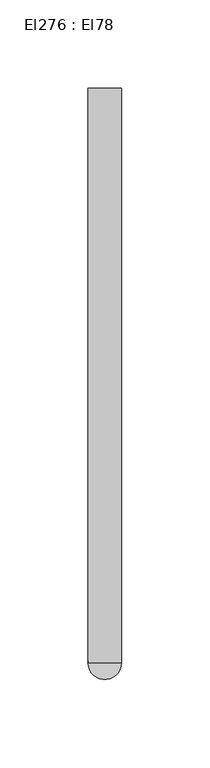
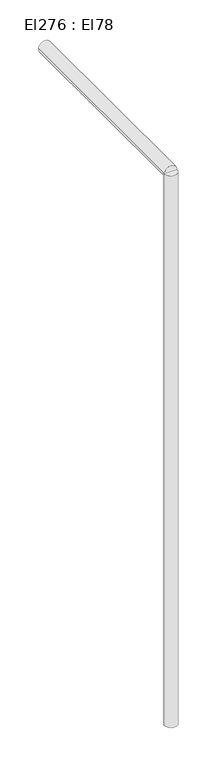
"""IFC4 building model written with IfcOpenShell, lengths in millimetres: cable carrier segment geometry, El276 : El78."""

from ifc_helpers import new_model, si_unit, point, frame, frame_2d, origin, place, context, project, spatial, circle_curve, trimmed, segment, composite_curve, outline, extrude, source, transform, mapped, element, save


def el276_el78_759472b1(model_context):
    return source(origin(), model_context, "Body", "SweptSolid", [
        extrude(outline(composite_curve([segment(trimmed(circle_curve(frame_2d((15114.4746511, 10022.3341745)), 9.5), [point((15104.9746511, 10022.3341745))], [point((15123.9746511, 10022.3341745))], False, "CARTESIAN"), True, "CONTINUOUS"), segment(trimmed(circle_curve(frame_2d((15114.4746511, 10022.3341745)), 9.5), [point((15123.9746511, 10022.3341745))], [point((15104.9746511, 10022.3341745))], False, "CARTESIAN"), True, "CONTINUOUS")], self_intersect=False)), frame((0.0, 0.0, 1830.0), z_axis=(0.0, 0.0, 1.0), x_axis=(1.0, 0.0, 0.0)), (0.0, 0.0, 1.0), 870.0),
        extrude(outline(composite_curve([segment(trimmed(circle_curve(frame_2d((2700.0, 15114.4746511)), 9.5), [point((2700.0, 15104.9746511))], [point((2700.0, 15123.9746511))], False, "CARTESIAN"), True, "CONTINUOUS"), segment(trimmed(circle_curve(frame_2d((2700.0, 15114.4746511)), 9.5), [point((2700.0, 15123.9746511))], [point((2700.0, 15104.9746511))], False, "CARTESIAN"), True, "CONTINUOUS")], self_intersect=False)), frame((0.0, 10022.3351745, 0.0), z_axis=(0.0, 1.0, 0.0), x_axis=(0.0, 0.0, 1.0)), (0.0, 0.0, 1.0), 325.255),
    ])


if __name__ == "__main__":
    model = new_model("IFC4")
    model_context = context("Model", 3, world=origin())
    ifc_project = project(units=[si_unit("LENGTHUNIT", "METRE", prefix="MILLI")], contexts=[model_context])
    site = spatial("IfcSite", under=ifc_project)
    building = spatial("IfcBuilding", under=site)
    placement = place(None, origin())
    el276_el78_shape = el276_el78_759472b1(model_context)
    element("IfcCableCarrierSegment", 1, ObjectType="El276 : El78", at=placement, inside=building, context=model_context, shape_type="MappedRepresentation", body=[
        mapped(el276_el78_shape, transform((0.0, 0.0, 0.0), x_axis=(1.0, 0.0, 0.0), y_axis=(0.0, 1.0, 0.0), z_axis=(0.0, 0.0, 1.0))),
    ])
    save(model, "model.ifc")
